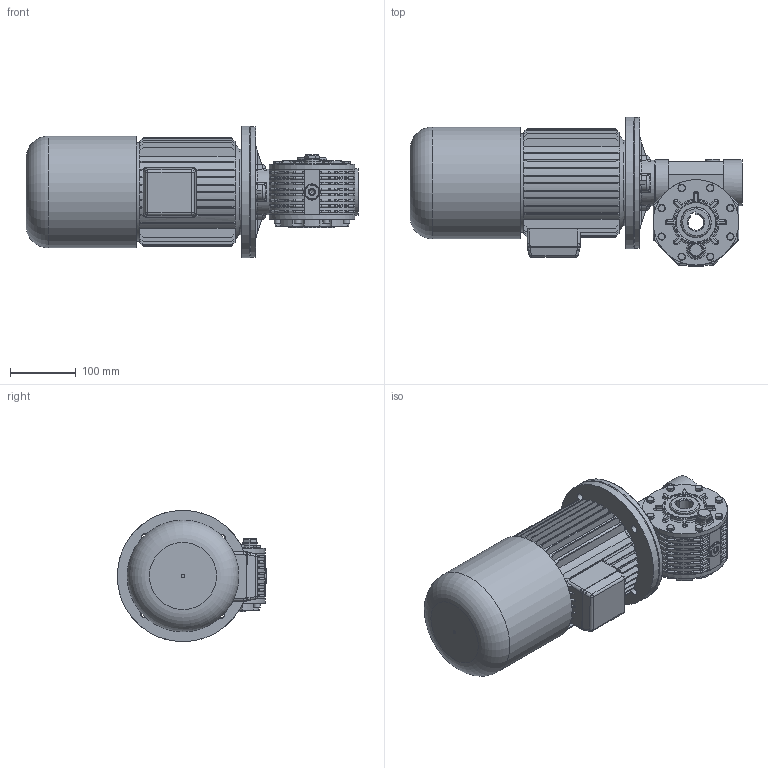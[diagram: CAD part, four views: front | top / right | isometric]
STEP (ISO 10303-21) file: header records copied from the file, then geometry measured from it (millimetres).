
FILE_DESCRIPTION((''),'2;1');
FILE_NAME('Y:\Archivi Inventor\Prog_01\GRAND_20\figuirini\mrv20_sito\80_autofrenante\MRV---20---FP2----80----B5-F3D.stp','2013-02-08T16:28:03',('tech3'),(''),'Autodesk Inventor 2013','Autodesk Inventor 2013','');
FILE_SCHEMA(('AUTOMOTIVE_DESIGN { 1 0 10303 214 1 1 1 1 }'));
Length unit declared in the file: millimetre
Products named in the file (18): fig_mrv20_80_b5; mrv20; 0102001; Coperchietto_47x7; Guarnizione 3_8 GAS; Tappo 3_8 GAS_esagn_incsst; mozzo_corona_fig; PARAOLIO 45x60x8; 0102029; 0102002-A1_fig; ISO 4762 M6 x 16; DIN EN 24017 M6 x 12; Tappo3_8 GAS; 0102004; 0102028; DIN EN ISO 4762 M6 x 20; 0102006; motori B5 brake 80
Assembly tree (40 placements, depth 3):
  fig_mrv20_80_b5
    mrv20
      0102001
      Coperchietto_47x7
      Guarnizione 3_8 GAS  x3
      Tappo 3_8 GAS_esagn_incsst  x2
      mozzo_corona_fig
      PARAOLIO 45x60x8  x2
      0102029  x2
      0102002-A1_fig
      ISO 4762 M6 x 16  x8
      DIN EN 24017 M6 x 12  x9
      Tappo3_8 GAS
      0102004
      0102028
      DIN EN ISO 4762 M6 x 20  x4
    0102006
    motori B5 brake 80
Bounding box: 505 x 227.5 x 199.99 mm (x, y, z)
Volume: 5470931.2 mm3; surface area: 850615 mm2
Topology: 40 solids, 52 shells, 2044 faces, 4926 edges, 2985 vertices
Faces by surface type: plane 891, cylinder 650, torus 184, bspline 177, cone 138, sphere 4
Full cylindrical faces by diameter (mm): 2 x2, 4.917 x20, 5 x1, 6 x21, 6.5 x28, 6.647 x4, 6.75 x12, 8 x2, 8.88 x9, 10 x12, 11 x12, 11.5 x4, 13.046 x1, 14.95 x3, 16.3 x3, 16.5 x2, 19 x1, 22 x6, 25 x2, 40 x1, 41.36 x1, 44.4 x2, 45 x4, 47 x4, 49.5 x1, 50.605 x2, 55.5 x2, 60 x5, 63 x1, 69.5 x1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
Entity records: 58071 total; most frequent: CARTESIAN_POINT 18679, DIRECTION 8323, ORIENTED_EDGE 7698, EDGE_CURVE 3849, AXIS2_PLACEMENT_3D 3361, VERTEX_POINT 2474, EDGE_LOOP 2049, CIRCLE 1753
